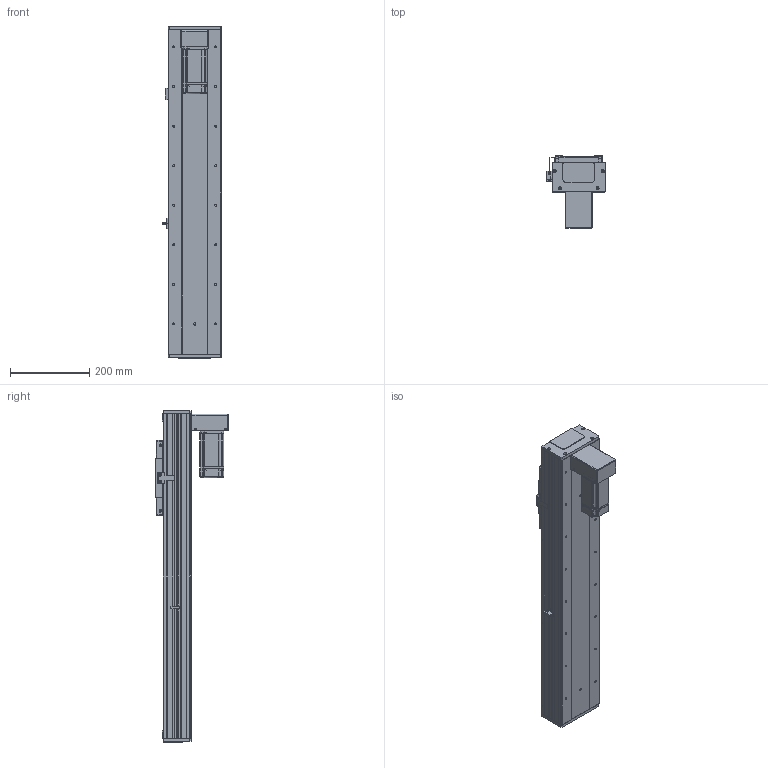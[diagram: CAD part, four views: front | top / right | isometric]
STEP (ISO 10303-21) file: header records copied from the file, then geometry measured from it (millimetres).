
FILE_DESCRIPTION (( 'STEP AP203' ), '1' );
FILE_NAME ('RY140F-L2020-300-BK.SLDASM_550.step', '2021-03-02T08:26:45', ( '盈信电脑' ), ( '东莞市道滘镇水果街19号' ), 'SwSTEP 2.0', 'SolidWorks 2012', '' );
FILE_SCHEMA (( 'CONFIG_CONTROL_DESIGN' ));
Products named in the file (21): RY140F-L2020-300-BK.SLDASM_550; RY140F-直连型材铝滑块(16丝杆); RY140F-詩湍嘐隅輸; 滅袉蝶18-10; RY140F-詩湍揤え; RY140F-狟殏萇儂欶(400W); RY140F-狟殏萇儂啣(400W M5); 侐源滅袉蝶; RY140F-672覜茼んえ; 覜茼ん672; 侂狟400W侜督萇儂; 藻笠沭; RY140F-后盖板(铝件）; 15; RY100F-詩湍揤踡謫; RY140F-直连型材铝滑块连接座; RY140F-滅鳥奻裔; RY140F-詩湍幗謫粣; RY140F-300-BK蛌殏詩湍_550; RY140F-300-BK倰第菁釱_550; RY140F-300-BK倰第奻裔啣_550
Assembly tree (26 placements, depth 3):
  RY140F-L2020-300-BK.SLDASM_550
    RY140F-300-BK倰第菁釱_550
    RY140F-300-BK倰第奻裔啣_550  x2
    RY140F-300-BK蛌殏詩湍_550
    RY140F-直连型材铝滑块连接座
    RY140F-滅鳥奻裔
    RY140F-詩湍幗謫粣
    藻笠沭  x2
    RY100F-詩湍揤踡謫
    RY140F-后盖板(铝件）  x2
    侂狟400W侜督萇儂
      15
    覜茼ん672
    RY140F-672覜茼んえ
    RY140F-詩湍揤え  x2
    侐源滅袉蝶  x2
    RY140F-狟殏萇儂啣(400W M5)
    RY140F-狟殏萇儂欶(400W)
    RY140F-詩湍嘐隅輸
    滅袉蝶18-10  x2
    RY140F-直连型材铝滑块(16丝杆)
Bounding box: 148.7 x 184.5 x 839 mm (x, y, z)
Volume: 3481996.4 mm3; surface area: 1230836 mm2
Topology: 25 solids, 25 shells, 1996 faces, 5464 edges, 3490 vertices
Faces by surface type: cylinder 963, plane 811, cone 196, bspline 22, torus 4
Entity records: 62900 total; most frequent: CARTESIAN_POINT 13257, DIRECTION 10007, ORIENTED_EDGE 9764, EDGE_CURVE 4882, AXIS2_PLACEMENT_3D 3568, VERTEX_POINT 3194, LINE 2871, VECTOR 2871
